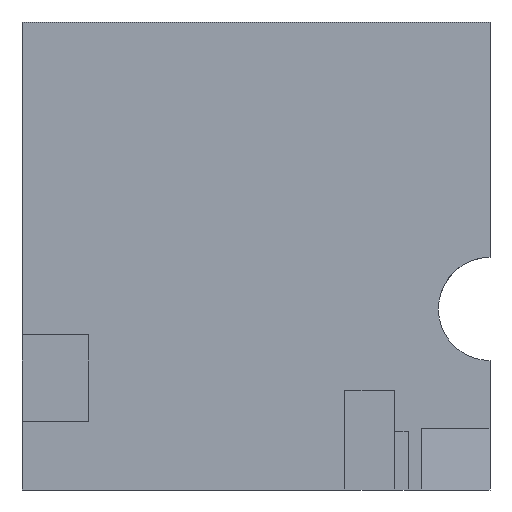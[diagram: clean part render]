
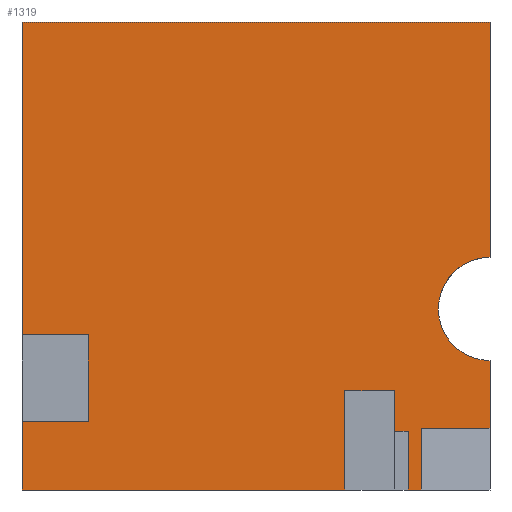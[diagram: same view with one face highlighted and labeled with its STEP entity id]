
A CAD part, left-side view. The second image highlights one B-rep face of the part: STEP entity #1319.
In plain terms, the highlighted planar face has unit normal (-1, 0, 0).
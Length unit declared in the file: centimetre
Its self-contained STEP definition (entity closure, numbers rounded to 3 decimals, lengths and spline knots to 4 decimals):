
#7 = CARTESIAN_POINT ( 'NONE',  ( 0., 0., 132.2958 ) ) ;
#23 = EDGE_CURVE ( 'NONE', #743, #1447, #719, .T. ) ;
#25 = CARTESIAN_POINT ( 'NONE',  ( 0., 1000., 146.0903 ) ) ;
#42 = VECTOR ( 'NONE', #1189, 100. ) ;
#61 = EDGE_CURVE ( 'NONE', #279, #904, #1271, .T. ) ;
#67 = ORIENTED_EDGE ( 'NONE', *, *, #1001, .F. ) ;
#106 = CARTESIAN_POINT ( 'NONE',  ( 0., 0., 1000. ) ) ;
#128 = DIRECTION ( 'NONE',  ( 0., 0., 1. ) ) ;
#144 = AXIS2_PLACEMENT_3D ( 'NONE', #453, #353, #347 ) ;
#146 = CARTESIAN_POINT ( 'NONE',  ( 0., 1000., 0. ) ) ;
#152 = ORIENTED_EDGE ( 'NONE', *, *, #253, .F. ) ;
#153 = DIRECTION ( 'NONE',  ( 0., -1., 0. ) ) ;
#157 = ORIENTED_EDGE ( 'NONE', *, *, #769, .F. ) ;
#172 = ORIENTED_EDGE ( 'NONE', *, *, #23, .F. ) ;
#193 = CARTESIAN_POINT ( 'NONE',  ( 0., 1000., 1000. ) ) ;
#195 = VERTEX_POINT ( 'NONE', #1030 ) ;
#215 = EDGE_CURVE ( 'NONE', #195, #230, #678, .T. ) ;
#221 = LINE ( 'NONE', #545, #1073 ) ;
#230 = VERTEX_POINT ( 'NONE', #7 ) ;
#246 = VERTEX_POINT ( 'NONE', #1252 ) ;
#250 = LINE ( 'NONE', #686, #1325 ) ;
#253 = EDGE_CURVE ( 'NONE', #1447, #1323, #250, .T. ) ;
#260 = VECTOR ( 'NONE', #376, 100. ) ;
#261 = CARTESIAN_POINT ( 'NONE',  ( 0., 857.9277, 146.0903 ) ) ;
#270 = VERTEX_POINT ( 'NONE', #1292 ) ;
#279 = VERTEX_POINT ( 'NONE', #373 ) ;
#291 = ORIENTED_EDGE ( 'NONE', *, *, #1091, .F. ) ;
#302 = EDGE_CURVE ( 'NONE', #407, #270, #820, .T. ) ;
#305 = CARTESIAN_POINT ( 'NONE',  ( 0., 310.4393, 0. ) ) ;
#312 = LINE ( 'NONE', #193, #1069 ) ;
#315 = ORIENTED_EDGE ( 'NONE', *, *, #215, .F. ) ;
#332 = LINE ( 'NONE', #465, #1121 ) ;
#342 = EDGE_CURVE ( 'NONE', #981, #270, #1153, .T. ) ;
#343 = LINE ( 'NONE', #676, #569 ) ;
#347 = DIRECTION ( 'NONE',  ( 0., 0., -1. ) ) ;
#353 = DIRECTION ( 'NONE',  ( 1., 0., 0. ) ) ;
#363 = LINE ( 'NONE', #1028, #858 ) ;
#369 = AXIS2_PLACEMENT_3D ( 'NONE', #577, #1361, #703 ) ;
#373 = CARTESIAN_POINT ( 'NONE',  ( 0., 174.7009, 125.3862 ) ) ;
#376 = DIRECTION ( 'NONE',  ( 0., 0., -1. ) ) ;
#389 = LINE ( 'NONE', #945, #807 ) ;
#390 = DIRECTION ( 'NONE',  ( 0., 0., 1. ) ) ;
#407 = VERTEX_POINT ( 'NONE', #513 ) ;
#412 = DIRECTION ( 'NONE',  ( 0., -1., 0. ) ) ;
#425 = VECTOR ( 'NONE', #907, 100. ) ;
#428 = CARTESIAN_POINT ( 'NONE',  ( 0., 0., 1000. ) ) ;
#453 = CARTESIAN_POINT ( 'NONE',  ( 0., 1000., 1000. ) ) ;
#463 = ORIENTED_EDGE ( 'NONE', *, *, #342, .T. ) ;
#465 = CARTESIAN_POINT ( 'NONE',  ( 0., 203.8914, 0. ) ) ;
#503 = VECTOR ( 'NONE', #390, 100. ) ;
#504 = VERTEX_POINT ( 'NONE', #305 ) ;
#506 = CARTESIAN_POINT ( 'NONE',  ( 0., 203.8914, 211.627 ) ) ;
#513 = CARTESIAN_POINT ( 'NONE',  ( 0., 146.9691, 132.2958 ) ) ;
#519 = ORIENTED_EDGE ( 'NONE', *, *, #1266, .T. ) ;
#541 = EDGE_CURVE ( 'NONE', #981, #279, #343, .T. ) ;
#545 = CARTESIAN_POINT ( 'NONE',  ( 0., 0., 1000. ) ) ;
#554 = LINE ( 'NONE', #1237, #425 ) ;
#559 = FACE_OUTER_BOUND ( 'NONE', #943, .T. ) ;
#562 = ORIENTED_EDGE ( 'NONE', *, *, #625, .T. ) ;
#565 = EDGE_CURVE ( 'NONE', #246, #504, #363, .T. ) ;
#566 = LINE ( 'NONE', #261, #886 ) ;
#569 = VECTOR ( 'NONE', #128, 100. ) ;
#577 = CARTESIAN_POINT ( 'NONE',  ( 0., 0., 386.862 ) ) ;
#592 = ORIENTED_EDGE ( 'NONE', *, *, #302, .F. ) ;
#604 = CARTESIAN_POINT ( 'NONE',  ( 0., 857.9277, 146.0903 ) ) ;
#625 = EDGE_CURVE ( 'NONE', #195, #1174, #1170, .T. ) ;
#640 = VECTOR ( 'NONE', #153, 100. ) ;
#665 = LINE ( 'NONE', #913, #42 ) ;
#671 = EDGE_CURVE ( 'NONE', #956, #504, #389, .T. ) ;
#676 = CARTESIAN_POINT ( 'NONE',  ( 0., 174.7009, 0. ) ) ;
#678 = LINE ( 'NONE', #106, #1211 ) ;
#686 = CARTESIAN_POINT ( 'NONE',  ( 0., 857.9277, 331.7551 ) ) ;
#689 = DIRECTION ( 'NONE',  ( 0., 1., 0. ) ) ;
#695 = CARTESIAN_POINT ( 'NONE',  ( 0., 146.9691, 132.2958 ) ) ;
#703 = DIRECTION ( 'NONE',  ( 0., 0., -1. ) ) ;
#706 = ORIENTED_EDGE ( 'NONE', *, *, #1334, .F. ) ;
#719 = LINE ( 'NONE', #604, #503 ) ;
#720 = VERTEX_POINT ( 'NONE', #506 ) ;
#722 = DIRECTION ( 'NONE',  ( 0., 0., -1. ) ) ;
#724 = ORIENTED_EDGE ( 'NONE', *, *, #61, .F. ) ;
#729 = CARTESIAN_POINT ( 'NONE',  ( 0., 1000., 1000. ) ) ;
#743 = VERTEX_POINT ( 'NONE', #1031 ) ;
#745 = VERTEX_POINT ( 'NONE', #25 ) ;
#769 = EDGE_CURVE ( 'NONE', #1184, #1123, #312, .T. ) ;
#785 = CARTESIAN_POINT ( 'NONE',  ( 0., 1000., 331.7551 ) ) ;
#791 = DIRECTION ( 'NONE',  ( 0., 0., -1. ) ) ;
#807 = VECTOR ( 'NONE', #815, 100. ) ;
#815 = DIRECTION ( 'NONE',  ( 0., 0., -1. ) ) ;
#817 = CARTESIAN_POINT ( 'NONE',  ( 0., 857.9277, 331.7551 ) ) ;
#820 = LINE ( 'NONE', #695, #1042 ) ;
#858 = VECTOR ( 'NONE', #1251, 100. ) ;
#886 = VECTOR ( 'NONE', #1397, 100. ) ;
#887 = CARTESIAN_POINT ( 'NONE',  ( 0., 203.8914, 125.3862 ) ) ;
#904 = VERTEX_POINT ( 'NONE', #887 ) ;
#907 = DIRECTION ( 'NONE',  ( 0., 0., -1. ) ) ;
#913 = CARTESIAN_POINT ( 'NONE',  ( 0., 203.8914, 211.627 ) ) ;
#943 = EDGE_LOOP ( 'NONE', ( #315, #562, #67, #157, #519, #152, #172, #706, #1068, #986, #951, #291, #1309, #724, #1316, #463, #592, #1391 ) ) ;
#945 = CARTESIAN_POINT ( 'NONE',  ( 0., 310.4393, 0. ) ) ;
#951 = ORIENTED_EDGE ( 'NONE', *, *, #671, .F. ) ;
#956 = VERTEX_POINT ( 'NONE', #1441 ) ;
#960 = CARTESIAN_POINT ( 'NONE',  ( 0., 0., 497.1967 ) ) ;
#981 = VERTEX_POINT ( 'NONE', #1341 ) ;
#986 = ORIENTED_EDGE ( 'NONE', *, *, #565, .T. ) ;
#1001 = EDGE_CURVE ( 'NONE', #1123, #1174, #221, .T. ) ;
#1003 = DIRECTION ( 'NONE',  ( 0., 0., 1. ) ) ;
#1025 = DIRECTION ( 'NONE',  ( 0., 0., -1. ) ) ;
#1028 = CARTESIAN_POINT ( 'NONE',  ( 0., 1000., 0. ) ) ;
#1030 = CARTESIAN_POINT ( 'NONE',  ( 0., 0., 276.5274 ) ) ;
#1031 = CARTESIAN_POINT ( 'NONE',  ( 0., 857.9277, 146.0903 ) ) ;
#1033 = CARTESIAN_POINT ( 'NONE',  ( 0., 0., 132.2958 ) ) ;
#1042 = VECTOR ( 'NONE', #722, 100. ) ;
#1055 = LINE ( 'NONE', #1380, #260 ) ;
#1068 = ORIENTED_EDGE ( 'NONE', *, *, #1423, .T. ) ;
#1069 = VECTOR ( 'NONE', #412, 100. ) ;
#1073 = VECTOR ( 'NONE', #1025, 100. ) ;
#1075 = EDGE_CURVE ( 'NONE', #904, #720, #332, .T. ) ;
#1085 = VECTOR ( 'NONE', #689, 100. ) ;
#1091 = EDGE_CURVE ( 'NONE', #720, #956, #665, .T. ) ;
#1121 = VECTOR ( 'NONE', #1003, 100. ) ;
#1123 = VERTEX_POINT ( 'NONE', #428 ) ;
#1144 = DIRECTION ( 'NONE',  ( 0., 1., 0. ) ) ;
#1153 = LINE ( 'NONE', #146, #640 ) ;
#1170 = CIRCLE ( 'NONE', #369, 110.3346 ) ;
#1172 = DIRECTION ( 'NONE',  ( 0., 1., 0. ) ) ;
#1174 = VERTEX_POINT ( 'NONE', #960 ) ;
#1184 = VERTEX_POINT ( 'NONE', #729 ) ;
#1189 = DIRECTION ( 'NONE',  ( 0., 1., 0. ) ) ;
#1211 = VECTOR ( 'NONE', #791, 100. ) ;
#1237 = CARTESIAN_POINT ( 'NONE',  ( 0., 1000., 1000. ) ) ;
#1251 = DIRECTION ( 'NONE',  ( 0., -1., 0. ) ) ;
#1252 = CARTESIAN_POINT ( 'NONE',  ( 0., 1000., 0. ) ) ;
#1255 = CARTESIAN_POINT ( 'NONE',  ( 0., 174.7009, 125.3862 ) ) ;
#1256 = LINE ( 'NONE', #1033, #1384 ) ;
#1266 = EDGE_CURVE ( 'NONE', #1184, #1323, #554, .T. ) ;
#1271 = LINE ( 'NONE', #1255, #1085 ) ;
#1292 = CARTESIAN_POINT ( 'NONE',  ( 0., 146.9691, 0. ) ) ;
#1309 = ORIENTED_EDGE ( 'NONE', *, *, #1075, .F. ) ;
#1316 = ORIENTED_EDGE ( 'NONE', *, *, #541, .F. ) ;
#1319 = ADVANCED_FACE ( 'NONE', ( #559 ), #1336, .F. ) ;
#1323 = VERTEX_POINT ( 'NONE', #785 ) ;
#1325 = VECTOR ( 'NONE', #1144, 100. ) ;
#1334 = EDGE_CURVE ( 'NONE', #745, #743, #566, .T. ) ;
#1336 = PLANE ( 'NONE',  #144 ) ;
#1341 = CARTESIAN_POINT ( 'NONE',  ( 0., 174.7009, 0. ) ) ;
#1361 = DIRECTION ( 'NONE',  ( 1., 0., 0. ) ) ;
#1380 = CARTESIAN_POINT ( 'NONE',  ( 0., 1000., 1000. ) ) ;
#1384 = VECTOR ( 'NONE', #1172, 100. ) ;
#1391 = ORIENTED_EDGE ( 'NONE', *, *, #1400, .F. ) ;
#1397 = DIRECTION ( 'NONE',  ( 0., -1., 0. ) ) ;
#1400 = EDGE_CURVE ( 'NONE', #230, #407, #1256, .T. ) ;
#1423 = EDGE_CURVE ( 'NONE', #745, #246, #1055, .T. ) ;
#1441 = CARTESIAN_POINT ( 'NONE',  ( 0., 310.4393, 211.627 ) ) ;
#1447 = VERTEX_POINT ( 'NONE', #817 ) ;
